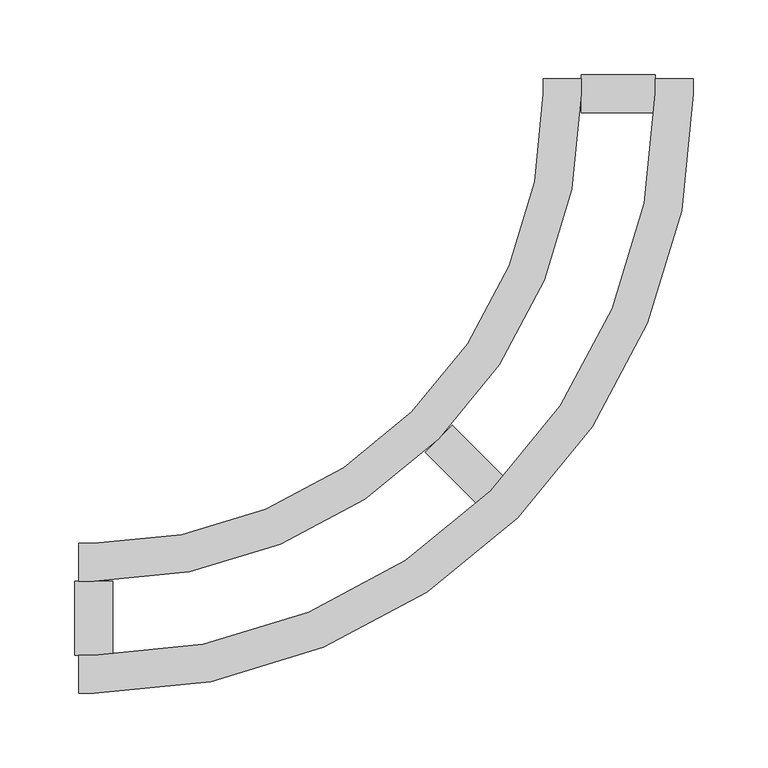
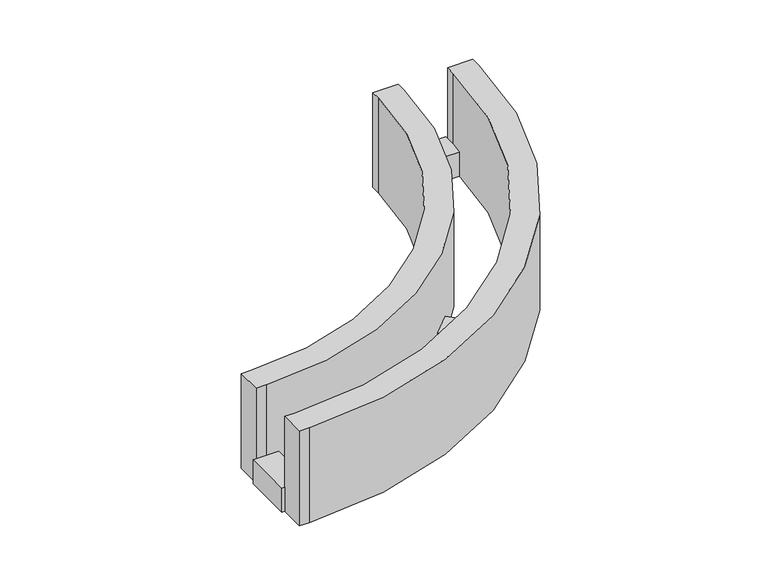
"""IFC4 building model written with IfcOpenShell, lengths in millimetres: cable carrier fitting geometry, ADSK_Поворот горизонтальный_Лестничный лоток : Радиус 300 мм."""

from ifc_helpers import new_model, si_unit, point, frame, frame_2d, origin, place, context, project, spatial, polyline, circle_curve, trimmed, segment, composite_curve, outline, extrude, source, transform, mapped, element, save


def cable_carrier_fitting_304708ae(model_context):
    return source(origin(), model_context, "Body", "SweptSolid", [
        extrude(outline(polyline([(-24.6, 337.3), (-24.6, 362.7), (24.6, 362.7), (24.6, 337.3), (-24.6, 337.3)])), frame((0.0, 0.0, -50.0), z_axis=(0.0, 0.0, 1.0), x_axis=(1.0, 0.0, 0.0)), (0.0, 0.0, 1.0), 25.4),
        extrude(outline(polyline([(-362.7, 24.6), (-337.3, 24.6), (-337.3, -24.6), (-362.7, -24.6), (-362.7, 24.6)])), frame((0.0, 0.0, -50.0), z_axis=(0.0, 0.0, 1.0), x_axis=(1.0, 0.0, 0.0)), (0.0, 0.0, 1.0), 25.4),
        extrude(outline(polyline([(-128.8877095, 110.9271973), (-110.9271973, 128.8877095), (-76.1375436, 94.0980559), (-94.0980559, 76.1375436), (-128.8877095, 110.9271973)])), frame((0.0, 0.0, -50.0), z_axis=(0.0, 0.0, 1.0), x_axis=(1.0, 0.0, 0.0)), (0.0, 0.0, 1.0), 25.4),
        extrude(outline(composite_curve([segment(polyline([(-360.0, -50.0), (-360.0, -24.6), (-350.0, -24.6)]), True, "CONTINUOUS"), segment(trimmed(circle_curve(frame_2d((-350.0, 350.0)), 374.6), [point((-350.0, -24.6))], [point((24.6, 350.0))], True, "CARTESIAN"), True, "CONTINUOUS"), segment(polyline([(24.6, 350.0), (24.6, 360.0), (50.0, 360.0), (50.0, 350.0)]), True, "CONTINUOUS"), segment(trimmed(circle_curve(frame_2d((-350.0, 350.0)), 400.0), [point((50.0, 350.0))], [point((-350.0, -50.0))], False, "CARTESIAN"), True, "CONTINUOUS"), segment(polyline([(-350.0, -50.0), (-360.0, -50.0)]), True, "CONTINUOUS")], self_intersect=False)), frame((0.0, 0.0, -50.0), z_axis=(0.0, 0.0, 1.0), x_axis=(1.0, 0.0, 0.0)), (0.0, 0.0, 1.0), 100.0),
        extrude(outline(composite_curve([segment(polyline([(-360.0, 24.6), (-360.0, 50.0), (-350.0, 50.0)]), True, "CONTINUOUS"), segment(trimmed(circle_curve(frame_2d((-350.0, 350.0)), 300.0), [point((-350.0, 50.0))], [point((-50.0, 350.0))], True, "CARTESIAN"), True, "CONTINUOUS"), segment(polyline([(-50.0, 350.0), (-50.0, 360.0), (-24.6, 360.0), (-24.6, 350.0)]), True, "CONTINUOUS"), segment(trimmed(circle_curve(frame_2d((-350.0, 350.0)), 325.4), [point((-24.6, 350.0))], [point((-350.0, 24.6))], False, "CARTESIAN"), True, "CONTINUOUS"), segment(polyline([(-350.0, 24.6), (-360.0, 24.6)]), True, "CONTINUOUS")], self_intersect=False)), frame((0.0, 0.0, -50.0), z_axis=(0.0, 0.0, 1.0), x_axis=(1.0, 0.0, 0.0)), (0.0, 0.0, 1.0), 100.0),
    ])


if __name__ == "__main__":
    model = new_model("IFC4")
    model_context = context("Model", 3, world=origin())
    ifc_project = project(units=[si_unit("LENGTHUNIT", "METRE", prefix="MILLI")], contexts=[model_context])
    site = spatial("IfcSite", under=ifc_project)
    building = spatial("IfcBuilding", under=site)
    placement = place(None, origin())
    cable_carrier_fitting_shape = cable_carrier_fitting_304708ae(model_context)
    element("IfcCableCarrierFitting", 1, ObjectType="ADSK_Поворот горизонтальный_Лестничный лоток : Радиус 300 мм", at=placement, inside=building, context=model_context, shape_type="MappedRepresentation", body=[
        mapped(cable_carrier_fitting_shape, transform((0.0, 0.0, 0.0), x_axis=(1.0, 0.0, 0.0), y_axis=(0.0, 1.0, 0.0), z_axis=(0.0, 0.0, 1.0))),
    ])
    save(model, "model.ifc")
